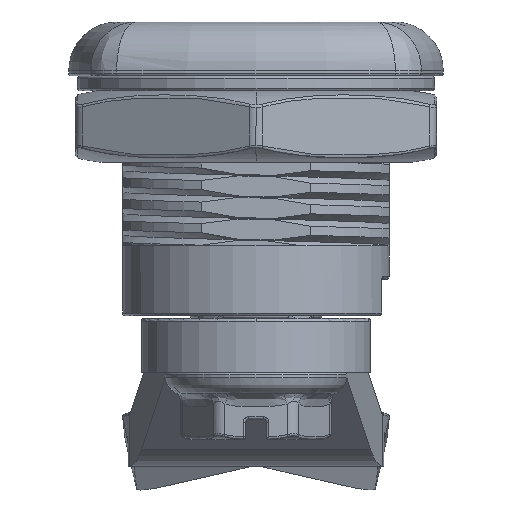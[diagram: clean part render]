
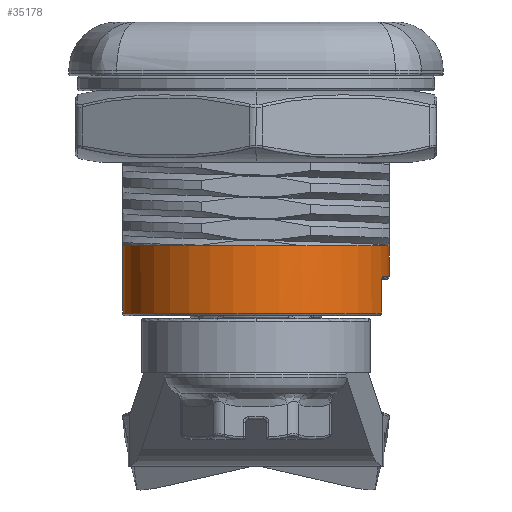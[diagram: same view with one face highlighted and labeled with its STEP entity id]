
A CAD part, front view. The second image highlights one B-rep face of the part: STEP entity #35178.
In plain terms, the highlighted cylindrical face has radius 9.9 mm (diameter 19.8 mm), a partial arc.
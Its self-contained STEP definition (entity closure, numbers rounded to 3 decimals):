
#20553 = DIRECTION ( 'NONE',  ( 0., 0., 1. ) ) ;
#20586 = DIRECTION ( 'NONE',  ( -1., 0., 0. ) ) ;
#20594 = AXIS2_PLACEMENT_3D ( 'NONE', #20595, #20553, #20586 ) ;
#20595 = CARTESIAN_POINT ( 'NONE',  ( 0., 0., -21.6 ) ) ;
#20603 = CIRCLE ( 'NONE', #20594, 9.9 ) ;
#20637 = CARTESIAN_POINT ( 'NONE',  ( 9.309, -3.368, -21.6 ) ) ;
#20639 = CARTESIAN_POINT ( 'NONE',  ( -9.9, 0., -21.6 ) ) ;
#20928 = CARTESIAN_POINT ( 'NONE',  ( 9.9, 0., -16.602 ) ) ;
#20984 = CARTESIAN_POINT ( 'NONE',  ( 9.9, 0., -18.9 ) ) ;
#21016 = CARTESIAN_POINT ( 'NONE',  ( -9.9, 0., -16.6 ) ) ;
#21064 = DIRECTION ( 'NONE',  ( 0., 0., -1. ) ) ;
#21065 = VECTOR ( 'NONE', #21064, 1000. ) ;
#21084 = CARTESIAN_POINT ( 'NONE',  ( 9.9, 0., -16.6 ) ) ;
#21085 = LINE ( 'NONE', #21084, #21065 ) ;
#21142 = CARTESIAN_POINT ( 'NONE',  ( 9.447, -2.96, -18.9 ) ) ;
#21145 = LINE ( 'NONE', #21194, #21193 ) ;
#21192 = DIRECTION ( 'NONE',  ( 0., 0., -1. ) ) ;
#21193 = VECTOR ( 'NONE', #21192, 1000. ) ;
#21194 = CARTESIAN_POINT ( 'NONE',  ( -9.9, 0., -16.6 ) ) ;
#21204 = CARTESIAN_POINT ( 'NONE',  ( 9.9, 0., -16.602 ) ) ;
#21205 = CARTESIAN_POINT ( 'NONE',  ( 9.9, -0.05, -16.601 ) ) ;
#21206 = CARTESIAN_POINT ( 'NONE',  ( 9.899, -0.1, -16.6 ) ) ;
#21208 = CARTESIAN_POINT ( 'NONE',  ( 9.899, -0.1, -16.6 ) ) ;
#21209 =( BOUNDED_CURVE ( )  B_SPLINE_CURVE ( 2, ( #21206, #21205, #21204 ),
 .UNSPECIFIED., .F., .T. ) 
 B_SPLINE_CURVE_WITH_KNOTS ( ( 3, 3 ),
 ( 0.984, 0.984 ),
 .UNSPECIFIED. ) 
 CURVE ( )  GEOMETRIC_REPRESENTATION_ITEM ( )  RATIONAL_B_SPLINE_CURVE ( ( 0.998, 0.999, 1. ) ) 
 REPRESENTATION_ITEM ( '' )  );
#21230 = DIRECTION ( 'NONE',  ( 0., 0., 1. ) ) ;
#21231 = VECTOR ( 'NONE', #21230, 1000. ) ;
#21234 = DIRECTION ( 'NONE',  ( -1., 0., 0. ) ) ;
#21235 = CARTESIAN_POINT ( 'NONE',  ( 9.309, -3.368, -16.6 ) ) ;
#21236 = LINE ( 'NONE', #21235, #21231 ) ;
#21238 = FACE_OUTER_BOUND ( 'NONE', #35118, .T. ) ;
#21239 = DIRECTION ( 'NONE',  ( 0., 0., -1. ) ) ;
#21244 = CYLINDRICAL_SURFACE ( 'NONE', #21245, 9.9 ) ;
#21245 = AXIS2_PLACEMENT_3D ( 'NONE', #21246, #21239, #21234 ) ;
#21246 = CARTESIAN_POINT ( 'NONE',  ( 0., 0., -16.6 ) ) ;
#21247 = CARTESIAN_POINT ( 'NONE',  ( 0., -9.9, -16.6 ) ) ;
#21334 = DIRECTION ( 'NONE',  ( -1., 0., 0. ) ) ;
#21335 = DIRECTION ( 'NONE',  ( 0., 0., 1. ) ) ;
#21336 = AXIS2_PLACEMENT_3D ( 'NONE', #21348, #21335, #21334 ) ;
#21337 = CIRCLE ( 'NONE', #21336, 9.9 ) ;
#21348 = CARTESIAN_POINT ( 'NONE',  ( 0., 0., -18.9 ) ) ;
#21357 = DIRECTION ( 'NONE',  ( -1., 0., 0. ) ) ;
#21358 = DIRECTION ( 'NONE',  ( 0., 0., -1. ) ) ;
#21360 = DIRECTION ( 'NONE',  ( -1., 0., 0. ) ) ;
#21361 = DIRECTION ( 'NONE',  ( 0., 0., -1. ) ) ;
#21362 = CARTESIAN_POINT ( 'NONE',  ( 0., 0., -16.6 ) ) ;
#21363 = AXIS2_PLACEMENT_3D ( 'NONE', #21362, #21361, #21360 ) ;
#21365 = CIRCLE ( 'NONE', #21369, 9.9 ) ;
#21367 = CIRCLE ( 'NONE', #21363, 9.9 ) ;
#21368 = CARTESIAN_POINT ( 'NONE',  ( 0., 0., -16.6 ) ) ;
#21369 = AXIS2_PLACEMENT_3D ( 'NONE', #21368, #21358, #21357 ) ;
#21371 = CARTESIAN_POINT ( 'NONE',  ( 9.309, -3.368, -19.3 ) ) ;
#21399 = CARTESIAN_POINT ( 'NONE',  ( 9.309, -3.368, -19.3 ) ) ;
#21400 = CARTESIAN_POINT ( 'NONE',  ( 9.309, -3.368, -19.19 ) ) ;
#21401 = CARTESIAN_POINT ( 'NONE',  ( 9.327, -3.32, -19.085 ) ) ;
#21402 = CARTESIAN_POINT ( 'NONE',  ( 9.38, -3.167, -18.94 ) ) ;
#21403 = CARTESIAN_POINT ( 'NONE',  ( 9.414, -3.064, -18.9 ) ) ;
#21404 = CARTESIAN_POINT ( 'NONE',  ( 9.447, -2.96, -18.9 ) ) ;
#21408 = B_SPLINE_CURVE_WITH_KNOTS ( 'NONE', 3,
 ( #21404, #21403, #21402, #21401, #21400, #21399 ),
 .UNSPECIFIED., .F., .F.,
 ( 4, 2, 4 ),
 ( 0., 0., 0.001 ),
 .UNSPECIFIED. ) ;
#34886 = EDGE_CURVE ( 'NONE', #34893, #34894, #20603, .T. ) ;
#34893 = VERTEX_POINT ( 'NONE', #20639 ) ;
#34894 = VERTEX_POINT ( 'NONE', #20637 ) ;
#35034 = VERTEX_POINT ( 'NONE', #20928 ) ;
#35052 = VERTEX_POINT ( 'NONE', #20984 ) ;
#35094 = EDGE_CURVE ( 'NONE', #35034, #35052, #21085, .T. ) ;
#35099 = VERTEX_POINT ( 'NONE', #21016 ) ;
#35118 = EDGE_LOOP ( 'NONE', ( #35181, #35164, #35173, #35124, #35163, #35240, #35229, #35234, #35216 ) ) ;
#35124 = ORIENTED_EDGE ( 'NONE', *, *, #35231, .T. ) ;
#35127 = VERTEX_POINT ( 'NONE', #21142 ) ;
#35156 = EDGE_CURVE ( 'NONE', #35099, #34893, #21145, .T. ) ;
#35163 = ORIENTED_EDGE ( 'NONE', *, *, #35156, .T. ) ;
#35164 = ORIENTED_EDGE ( 'NONE', *, *, #35169, .F. ) ;
#35169 = EDGE_CURVE ( 'NONE', #35170, #35034, #21209, .T. ) ;
#35170 = VERTEX_POINT ( 'NONE', #21208 ) ;
#35173 = ORIENTED_EDGE ( 'NONE', *, *, #35226, .T. ) ;
#35176 = VERTEX_POINT ( 'NONE', #21247 ) ;
#35178 = ADVANCED_FACE ( 'NONE', ( #21238 ), #21244, .T. ) ;
#35179 = EDGE_CURVE ( 'NONE', #34894, #35235, #21236, .T. ) ;
#35181 = ORIENTED_EDGE ( 'NONE', *, *, #35094, .F. ) ;
#35215 = EDGE_CURVE ( 'NONE', #35127, #35052, #21337, .T. ) ;
#35216 = ORIENTED_EDGE ( 'NONE', *, *, #35215, .T. ) ;
#35226 = EDGE_CURVE ( 'NONE', #35170, #35176, #21367, .T. ) ;
#35229 = ORIENTED_EDGE ( 'NONE', *, *, #35179, .T. ) ;
#35231 = EDGE_CURVE ( 'NONE', #35176, #35099, #21365, .T. ) ;
#35234 = ORIENTED_EDGE ( 'NONE', *, *, #35238, .F. ) ;
#35235 = VERTEX_POINT ( 'NONE', #21371 ) ;
#35238 = EDGE_CURVE ( 'NONE', #35127, #35235, #21408, .T. ) ;
#35240 = ORIENTED_EDGE ( 'NONE', *, *, #34886, .T. ) ;
